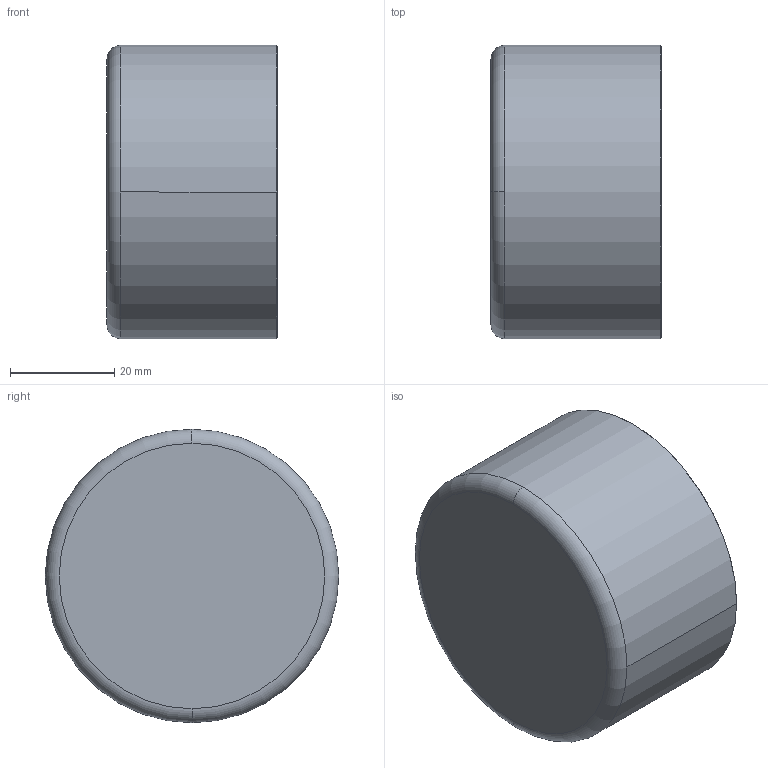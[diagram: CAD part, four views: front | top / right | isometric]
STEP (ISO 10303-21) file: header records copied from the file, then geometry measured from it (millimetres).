
FILE_DESCRIPTION((''),'2;1');
FILE_NAME('C:\sanha_work\5130\f\530142.stp','2005-10-21T18:20:04',('Kris'),(''),'Autodesk Inventor 8','Autodesk Inventor 8','');
FILE_SCHEMA(('AUTOMOTIVE_DESIGN { 1 0 10303 214 1 1 1 1 }'));
Length unit declared in the file: millimetre
Products named in the file (1): 530142
Bounding box: 32.7 x 56.4 x 56.4 mm (x, y, z)
Volume: 9355.8 mm3; surface area: 15775 mm2
Topology: 1 solids, 1 shells, 15 faces, 34 edges, 22 vertices
Faces by surface type: torus 4, cylinder 4, cone 4, plane 3
Entity records: 461 total; most frequent: DIRECTION 92, CARTESIAN_POINT 72, ORIENTED_EDGE 68, AXIS2_PLACEMENT_3D 42, EDGE_CURVE 34, CIRCLE 26, VERTEX_POINT 22, EDGE_LOOP 16
